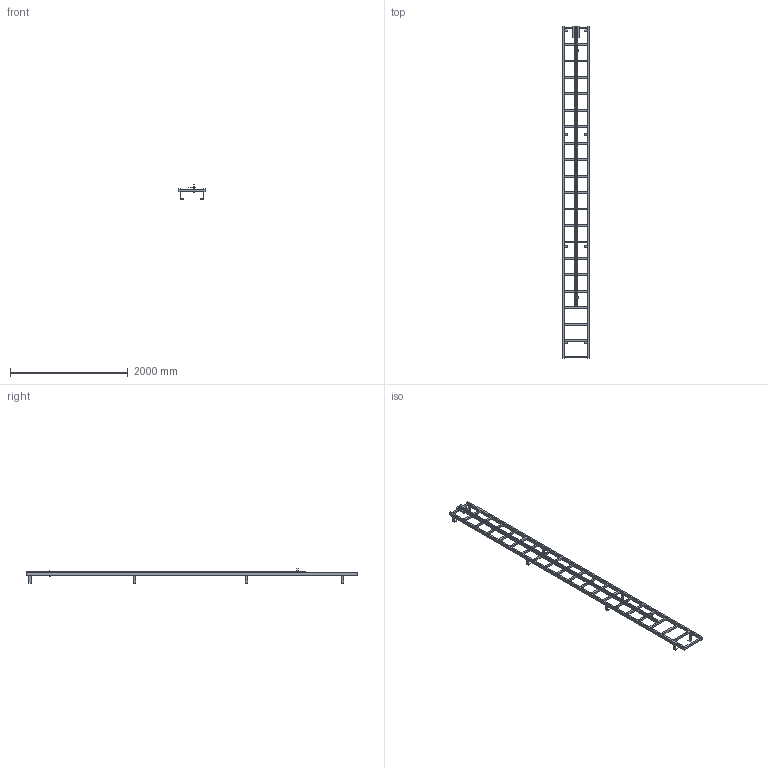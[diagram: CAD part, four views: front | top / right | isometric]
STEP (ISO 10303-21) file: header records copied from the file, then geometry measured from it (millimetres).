
FILE_DESCRIPTION((''),'2;1');
FILE_NAME('52330187','2024-12-05T08:52:17',('wep'),('HUBER SE'),'CREO PARAMETRIC BY PTC INC, 2022162','CREO PARAMETRIC BY PTC INC, 2022162','');
FILE_SCHEMA(('AUTOMOTIVE_DESIGN { 1 0 10303 214 1 1 1 1 }'));
Length unit declared in the file: millimetre
Products named in the file (1): 52330187
Bounding box: 450 x 5650 x 239 mm (x, y, z)
Volume: 24462044 mm3; surface area: 4237730.5 mm2
Topology: 2 solids, 2 shells, 344 faces, 1002 edges, 658 vertices
Faces by surface type: plane 344
Entity records: 11877 total; most frequent: CARTESIAN_POINT 2006, ORIENTED_EDGE 2004, DIRECTION 1690, VECTOR 1002, LINE 1002, EDGE_CURVE 1002, VERTEX_POINT 658, EDGE_LOOP 452
